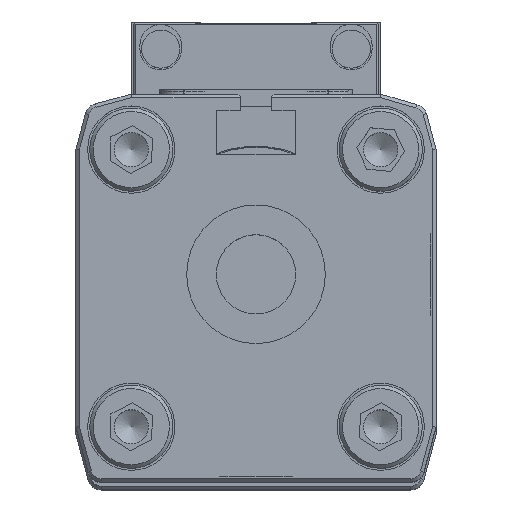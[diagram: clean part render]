
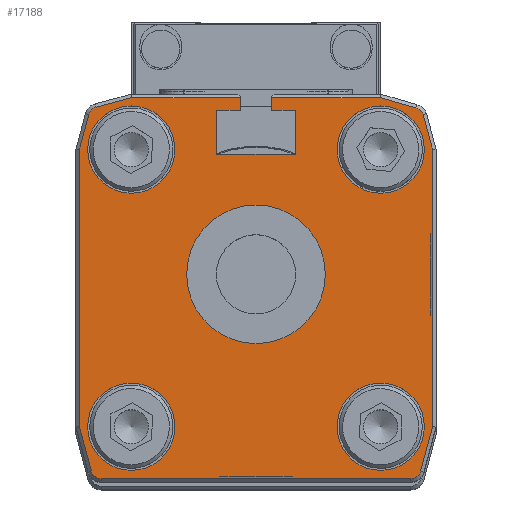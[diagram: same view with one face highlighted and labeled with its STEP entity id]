
A CAD part, top view. The second image highlights one B-rep face of the part: STEP entity #17188.
In plain terms, the highlighted planar face has unit normal (0, 0, 1).
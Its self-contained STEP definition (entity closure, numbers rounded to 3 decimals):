
#229=LINE('',#23160,#1359);
#232=LINE('',#23166,#1362);
#236=LINE('',#23178,#1366);
#245=LINE('',#23196,#1375);
#250=LINE('',#23208,#1380);
#254=LINE('',#23220,#1384);
#259=LINE('',#23230,#1389);
#301=LINE('',#23381,#1431);
#302=LINE('',#23383,#1432);
#303=LINE('',#23387,#1433);
#304=LINE('',#23389,#1434);
#305=LINE('',#23391,#1435);
#306=LINE('',#23395,#1436);
#307=LINE('',#23399,#1437);
#308=LINE('',#23401,#1438);
#309=LINE('',#23403,#1439);
#310=LINE('',#23407,#1440);
#311=LINE('',#23409,#1441);
#1359=VECTOR('',#19459,1000.);
#1362=VECTOR('',#19464,1000.);
#1366=VECTOR('',#19476,1000.);
#1375=VECTOR('',#19489,1000.);
#1380=VECTOR('',#19498,1000.);
#1384=VECTOR('',#19510,1000.);
#1389=VECTOR('',#19517,1000.);
#1431=VECTOR('',#19633,1000.);
#1432=VECTOR('',#19634,1000.);
#1433=VECTOR('',#19637,1000.);
#1434=VECTOR('',#19638,1000.);
#1435=VECTOR('',#19639,1000.);
#1436=VECTOR('',#19642,1000.);
#1437=VECTOR('',#19645,1000.);
#1438=VECTOR('',#19646,1000.);
#1439=VECTOR('',#19647,1000.);
#1440=VECTOR('',#19650,1000.);
#1441=VECTOR('',#19651,1000.);
#2447=PLANE('',#18090);
#3185=ORIENTED_EDGE('',*,*,#6423,.T.);
#3186=ORIENTED_EDGE('',*,*,#6424,.T.);
#3187=ORIENTED_EDGE('',*,*,#6425,.T.);
#3188=ORIENTED_EDGE('',*,*,#6426,.T.);
#3189=ORIENTED_EDGE('',*,*,#6427,.T.);
#3190=ORIENTED_EDGE('',*,*,#6326,.F.);
#3191=ORIENTED_EDGE('',*,*,#6428,.T.);
#3192=ORIENTED_EDGE('',*,*,#6429,.T.);
#3193=ORIENTED_EDGE('',*,*,#6430,.T.);
#3194=ORIENTED_EDGE('',*,*,#6431,.T.);
#3195=ORIENTED_EDGE('',*,*,#6432,.T.);
#3196=ORIENTED_EDGE('',*,*,#6433,.T.);
#3197=ORIENTED_EDGE('',*,*,#6434,.T.);
#3198=ORIENTED_EDGE('',*,*,#6435,.T.);
#3199=ORIENTED_EDGE('',*,*,#6436,.T.);
#3200=ORIENTED_EDGE('',*,*,#6437,.T.);
#3201=ORIENTED_EDGE('',*,*,#6438,.T.);
#3202=ORIENTED_EDGE('',*,*,#6439,.T.);
#3203=ORIENTED_EDGE('',*,*,#6440,.T.);
#3204=ORIENTED_EDGE('',*,*,#6441,.T.);
#3205=ORIENTED_EDGE('',*,*,#6442,.T.);
#3206=ORIENTED_EDGE('',*,*,#6362,.F.);
#3207=ORIENTED_EDGE('',*,*,#6357,.F.);
#3208=ORIENTED_EDGE('',*,*,#6354,.F.);
#3209=ORIENTED_EDGE('',*,*,#6351,.F.);
#3210=ORIENTED_EDGE('',*,*,#6345,.F.);
#3211=ORIENTED_EDGE('',*,*,#6335,.F.);
#3212=ORIENTED_EDGE('',*,*,#6332,.F.);
#3213=ORIENTED_EDGE('',*,*,#6329,.F.);
#6326=EDGE_CURVE('',#7958,#7959,#229,.T.);
#6329=EDGE_CURVE('',#7959,#7961,#232,.T.);
#6332=EDGE_CURVE('',#7961,#7963,#9049,.T.);
#6335=EDGE_CURVE('',#7963,#7965,#236,.T.);
#6345=EDGE_CURVE('',#7965,#7972,#245,.T.);
#6351=EDGE_CURVE('',#7972,#7977,#250,.T.);
#6354=EDGE_CURVE('',#7977,#7979,#9053,.T.);
#6357=EDGE_CURVE('',#7979,#7981,#254,.T.);
#6362=EDGE_CURVE('',#7981,#7985,#259,.T.);
#6423=EDGE_CURVE('',#8026,#8026,#9068,.T.);
#6424=EDGE_CURVE('',#8027,#8027,#9069,.T.);
#6425=EDGE_CURVE('',#8028,#8028,#9070,.T.);
#6426=EDGE_CURVE('',#8029,#8029,#9071,.T.);
#6427=EDGE_CURVE('',#8030,#8030,#9072,.T.);
#6428=EDGE_CURVE('',#7958,#8031,#301,.T.);
#6429=EDGE_CURVE('',#8031,#8032,#302,.T.);
#6430=EDGE_CURVE('',#8032,#8033,#9073,.T.);
#6431=EDGE_CURVE('',#8033,#8034,#303,.T.);
#6432=EDGE_CURVE('',#8034,#8035,#304,.T.);
#6433=EDGE_CURVE('',#8035,#8036,#305,.T.);
#6434=EDGE_CURVE('',#8036,#8037,#9074,.T.);
#6435=EDGE_CURVE('',#8037,#8038,#306,.T.);
#6436=EDGE_CURVE('',#8038,#8039,#9075,.T.);
#6437=EDGE_CURVE('',#8039,#8040,#307,.T.);
#6438=EDGE_CURVE('',#8040,#8041,#308,.T.);
#6439=EDGE_CURVE('',#8041,#8042,#309,.T.);
#6440=EDGE_CURVE('',#8042,#8043,#9076,.T.);
#6441=EDGE_CURVE('',#8043,#8044,#310,.T.);
#6442=EDGE_CURVE('',#8044,#7985,#311,.T.);
#7958=VERTEX_POINT('',#23159);
#7959=VERTEX_POINT('',#23161);
#7961=VERTEX_POINT('',#23167);
#7963=VERTEX_POINT('',#23173);
#7965=VERTEX_POINT('',#23179);
#7972=VERTEX_POINT('',#23197);
#7977=VERTEX_POINT('',#23209);
#7979=VERTEX_POINT('',#23215);
#7981=VERTEX_POINT('',#23221);
#7985=VERTEX_POINT('',#23231);
#8026=VERTEX_POINT('',#23372);
#8027=VERTEX_POINT('',#23374);
#8028=VERTEX_POINT('',#23376);
#8029=VERTEX_POINT('',#23378);
#8030=VERTEX_POINT('',#23380);
#8031=VERTEX_POINT('',#23382);
#8032=VERTEX_POINT('',#23384);
#8033=VERTEX_POINT('',#23386);
#8034=VERTEX_POINT('',#23388);
#8035=VERTEX_POINT('',#23390);
#8036=VERTEX_POINT('',#23392);
#8037=VERTEX_POINT('',#23394);
#8038=VERTEX_POINT('',#23396);
#8039=VERTEX_POINT('',#23398);
#8040=VERTEX_POINT('',#23400);
#8041=VERTEX_POINT('',#23402);
#8042=VERTEX_POINT('',#23404);
#8043=VERTEX_POINT('',#23406);
#8044=VERTEX_POINT('',#23408);
#9049=CIRCLE('',#18048,0.15);
#9053=CIRCLE('',#18056,0.15);
#9068=CIRCLE('',#18091,6.3);
#9069=CIRCLE('',#18092,6.3);
#9070=CIRCLE('',#18093,6.3);
#9071=CIRCLE('',#18094,6.3);
#9072=CIRCLE('',#18095,10.);
#9073=CIRCLE('',#18096,1.5);
#9074=CIRCLE('',#18097,1.5);
#9075=CIRCLE('',#18098,1.5);
#9076=CIRCLE('',#18099,1.373);
#9509=EDGE_LOOP('',(#3185));
#9510=EDGE_LOOP('',(#3186));
#9511=EDGE_LOOP('',(#3187));
#9512=EDGE_LOOP('',(#3188));
#9513=EDGE_LOOP('',(#3189));
#9514=EDGE_LOOP('',(#3190,#3191,#3192,#3193,#3194,#3195,#3196,#3197,#3198,
#3199,#3200,#3201,#3202,#3203,#3204,#3205,#3206,#3207,#3208,#3209,#3210,
#3211,#3212,#3213));
#10533=FACE_BOUND('',#9509,.T.);
#10534=FACE_BOUND('',#9510,.T.);
#10535=FACE_BOUND('',#9511,.T.);
#10536=FACE_BOUND('',#9512,.T.);
#10537=FACE_BOUND('',#9513,.T.);
#10538=FACE_BOUND('',#9514,.T.);
#17188=ADVANCED_FACE('',(#10533,#10534,#10535,#10536,#10537,#10538),#2447,
 .T.);
#18048=AXIS2_PLACEMENT_3D('',#23172,#19470,#19471);
#18056=AXIS2_PLACEMENT_3D('',#23214,#19504,#19505);
#18090=AXIS2_PLACEMENT_3D('',#23370,#19621,#19622);
#18091=AXIS2_PLACEMENT_3D('',#23371,#19623,#19624);
#18092=AXIS2_PLACEMENT_3D('',#23373,#19625,#19626);
#18093=AXIS2_PLACEMENT_3D('',#23375,#19627,#19628);
#18094=AXIS2_PLACEMENT_3D('',#23377,#19629,#19630);
#18095=AXIS2_PLACEMENT_3D('',#23379,#19631,#19632);
#18096=AXIS2_PLACEMENT_3D('',#23385,#19635,#19636);
#18097=AXIS2_PLACEMENT_3D('',#23393,#19640,#19641);
#18098=AXIS2_PLACEMENT_3D('',#23397,#19643,#19644);
#18099=AXIS2_PLACEMENT_3D('',#23405,#19648,#19649);
#19459=DIRECTION('',(0.,-1.,0.));
#19464=DIRECTION('',(-1.,0.,0.));
#19470=DIRECTION('',(0.,0.,1.));
#19471=DIRECTION('',(1.,0.,0.));
#19476=DIRECTION('',(0.,-1.,0.));
#19489=DIRECTION('',(1.,0.,0.));
#19498=DIRECTION('',(0.,1.,0.));
#19504=DIRECTION('',(0.,0.,1.));
#19505=DIRECTION('',(1.,0.,0.));
#19510=DIRECTION('',(-1.,0.,0.));
#19517=DIRECTION('',(0.,1.,0.));
#19621=DIRECTION('',(0.,0.,1.));
#19622=DIRECTION('',(1.,0.,0.));
#19623=DIRECTION('',(0.,0.,-1.));
#19624=DIRECTION('',(-1.,0.,0.));
#19625=DIRECTION('',(0.,0.,-1.));
#19626=DIRECTION('',(-1.,0.,0.));
#19627=DIRECTION('',(0.,0.,-1.));
#19628=DIRECTION('',(-1.,0.,0.));
#19629=DIRECTION('',(0.,0.,-1.));
#19630=DIRECTION('',(-1.,0.,0.));
#19631=DIRECTION('',(0.,0.,-1.));
#19632=DIRECTION('',(-1.,0.,0.));
#19633=DIRECTION('',(-1.,0.,0.));
#19634=DIRECTION('',(-0.966,-0.259,0.));
#19635=DIRECTION('',(0.,0.,1.));
#19636=DIRECTION('',(1.,0.,0.));
#19637=DIRECTION('',(-0.259,-0.966,0.));
#19638=DIRECTION('',(0.,-1.,0.));
#19639=DIRECTION('',(0.259,-0.966,0.));
#19640=DIRECTION('',(0.,0.,1.));
#19641=DIRECTION('',(1.,0.,0.));
#19642=DIRECTION('',(1.,0.,0.));
#19643=DIRECTION('',(0.,0.,1.));
#19644=DIRECTION('',(1.,0.,0.));
#19645=DIRECTION('',(0.259,0.966,0.));
#19646=DIRECTION('',(0.,1.,0.));
#19647=DIRECTION('',(-0.259,0.966,0.));
#19648=DIRECTION('',(0.,0.,1.));
#19649=DIRECTION('',(1.,0.,0.));
#19650=DIRECTION('',(-0.961,0.276,0.));
#19651=DIRECTION('',(-1.,0.,0.));
#23159=CARTESIAN_POINT('',(-2.25,23.,27.));
#23160=CARTESIAN_POINT('',(-2.25,23.1,27.));
#23161=CARTESIAN_POINT('',(-2.25,21.2,27.));
#23166=CARTESIAN_POINT('',(-2.25,21.2,27.));
#23167=CARTESIAN_POINT('',(-5.55,21.2,27.));
#23172=CARTESIAN_POINT('',(-5.55,21.05,27.));
#23173=CARTESIAN_POINT('',(-5.7,21.05,27.));
#23178=CARTESIAN_POINT('',(-5.7,21.05,27.));
#23179=CARTESIAN_POINT('',(-5.7,14.8,27.));
#23196=CARTESIAN_POINT('',(-5.7,14.8,27.));
#23197=CARTESIAN_POINT('',(5.7,14.8,27.));
#23208=CARTESIAN_POINT('',(5.7,14.8,27.));
#23209=CARTESIAN_POINT('',(5.7,21.05,27.));
#23214=CARTESIAN_POINT('',(5.55,21.05,27.));
#23215=CARTESIAN_POINT('',(5.55,21.2,27.));
#23220=CARTESIAN_POINT('',(5.55,21.2,27.));
#23221=CARTESIAN_POINT('',(2.25,21.2,27.));
#23230=CARTESIAN_POINT('',(2.25,21.2,27.));
#23231=CARTESIAN_POINT('',(2.25,23.,27.));
#23370=CARTESIAN_POINT('',(-5.55,21.05,27.));
#23371=CARTESIAN_POINT('',(18.,15.5,27.));
#23372=CARTESIAN_POINT('',(11.7,15.5,27.));
#23373=CARTESIAN_POINT('',(18.,-24.5,27.));
#23374=CARTESIAN_POINT('',(11.7,-24.5,27.));
#23375=CARTESIAN_POINT('',(-18.,15.5,27.));
#23376=CARTESIAN_POINT('',(-24.3,15.5,27.));
#23377=CARTESIAN_POINT('',(-18.,-24.5,27.));
#23378=CARTESIAN_POINT('',(-24.3,-24.5,27.));
#23379=CARTESIAN_POINT('',(0.,-2.5,27.));
#23380=CARTESIAN_POINT('',(-10.,-2.5,27.));
#23381=CARTESIAN_POINT('',(-5.55,23.,27.));
#23382=CARTESIAN_POINT('',(-17.934,23.,27.));
#23383=CARTESIAN_POINT('',(-6.867,25.965,27.));
#23384=CARTESIAN_POINT('',(-23.065,21.625,27.));
#23385=CARTESIAN_POINT('',(-22.676,20.176,27.));
#23386=CARTESIAN_POINT('',(-24.125,20.565,27.));
#23387=CARTESIAN_POINT('',(-22.76,25.661,27.));
#23388=CARTESIAN_POINT('',(-25.5,15.434,27.));
#23389=CARTESIAN_POINT('',(-25.5,21.05,27.));
#23390=CARTESIAN_POINT('',(-25.5,-24.434,27.));
#23391=CARTESIAN_POINT('',(-35.535,13.016,27.));
#23392=CARTESIAN_POINT('',(-23.771,-30.888,27.));
#23393=CARTESIAN_POINT('',(-22.322,-30.5,27.));
#23394=CARTESIAN_POINT('',(-22.322,-32.,27.));
#23395=CARTESIAN_POINT('',(-5.55,-32.,27.));
#23396=CARTESIAN_POINT('',(22.322,-32.,27.));
#23397=CARTESIAN_POINT('',(22.322,-30.5,27.));
#23398=CARTESIAN_POINT('',(23.771,-30.888,27.));
#23399=CARTESIAN_POINT('',(34.791,10.241,27.));
#23400=CARTESIAN_POINT('',(25.5,-24.434,27.));
#23401=CARTESIAN_POINT('',(25.5,21.05,27.));
#23402=CARTESIAN_POINT('',(25.5,15.434,27.));
#23403=CARTESIAN_POINT('',(24.126,20.565,27.));
#23404=CARTESIAN_POINT('',(24.127,20.56,27.));
#23405=CARTESIAN_POINT('',(22.809,20.176,27.));
#23406=CARTESIAN_POINT('',(23.075,21.522,27.));
#23407=CARTESIAN_POINT('',(-3.243,29.081,27.));
#23408=CARTESIAN_POINT('',(17.93,23.,27.));
#23409=CARTESIAN_POINT('',(-5.55,23.,27.));
